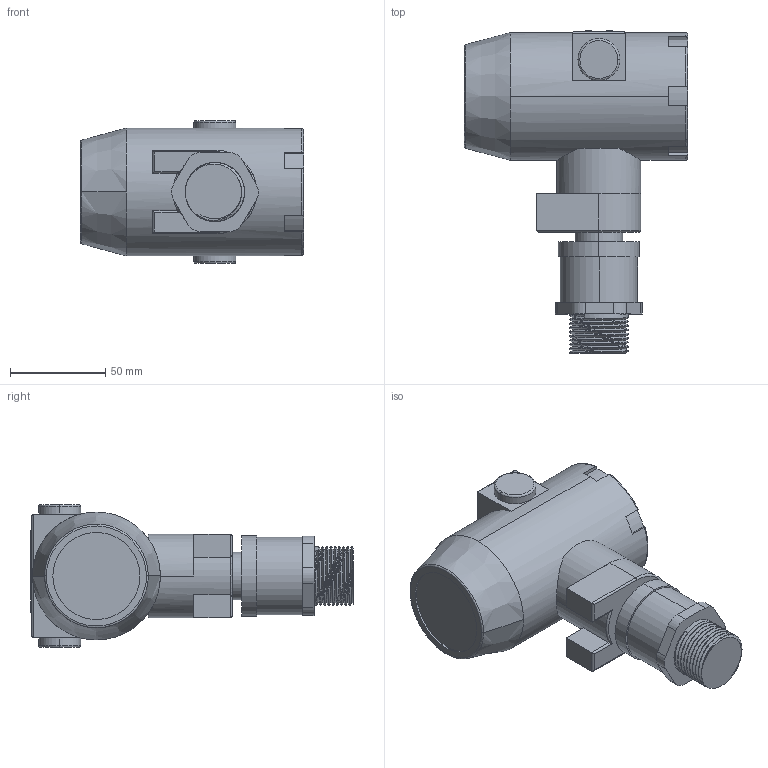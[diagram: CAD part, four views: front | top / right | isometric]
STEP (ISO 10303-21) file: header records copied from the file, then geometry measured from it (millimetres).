
FILE_DESCRIPTION((''),'2;1');
FILE_NAME('ASM0009_ASM','2025-12-29T11:20:19',('28740194'),(''),'CREO PARAMETRIC BY PTC INC, 2024063','CREO PARAMETRIC BY PTC INC, 2024063','');
FILE_SCHEMA(('CONFIG_CONTROL_DESIGN'));
Length unit declared in the file: millimetre
Products named in the file (3): ZZ0001; 55000; ASM0009_ASM
Assembly tree (2 placements, depth 2):
  ASM0009_ASM
    ZZ0001
    55000
Bounding box: 117 x 169 x 75 mm (x, y, z)
Volume: 547446.2 mm3; surface area: 54034 mm2
Topology: 2 solids, 2 shells, 770 faces, 2174 edges, 1442 vertices
Faces by surface type: plane 689, cylinder 56, bspline 13, torus 12
Entity records: 27978 total; most frequent: CARTESIAN_POINT 8059, ORIENTED_EDGE 4348, DIRECTION 3707, EDGE_CURVE 2174, VECTOR 1989, LINE 1989, VERTEX_POINT 1442, AXIS2_PLACEMENT_3D 859
